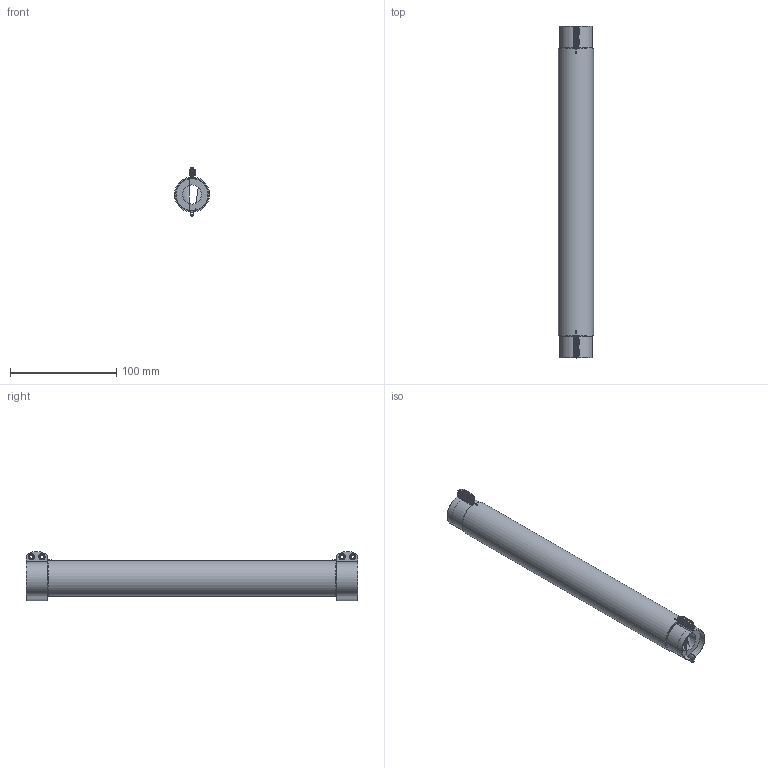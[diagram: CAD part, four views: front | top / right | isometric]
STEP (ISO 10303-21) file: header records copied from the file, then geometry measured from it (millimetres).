
FILE_DESCRIPTION(/* description */ (''),/* implementation_level */ '2;1');
FILE_NAME(/* name */ 'C:\_Vault\Dati\CATALOGO\RC-RS\TF\RS1300.stp',/* time_stamp */ '2014-01-29T14:45:41+01:00',/* author */ ('stefano'),/* organization */ (''),/* preprocessor_version */ 'ST-DEVELOPER v15.2',/* originating_system */ 'Autodesk Inventor 2014',/* authorisation */ '');
FILE_SCHEMA (('AUTOMOTIVE_DESIGN { 1 0 10303 214 3 1 1 }'));
Length unit declared in the file: millimetre
Products named in the file (1): RS1300
Bounding box: 32.97 x 312 x 46.13 mm (x, y, z)
Volume: 171247.2 mm3; surface area: 55524.9 mm2
Topology: 1 solids, 5 shells, 123 faces, 284 edges, 185 vertices
Faces by surface type: cylinder 53, plane 44, torus 18, bspline 8
Full cylindrical faces by diameter (mm): 0.4 x2, 0.8 x4, 3.2 x4, 4.2 x8, 6 x8, 18 x1, 30 x3, 33 x1
Entity records: 3935 total; most frequent: CARTESIAN_POINT 1135, DIRECTION 554, ORIENTED_EDGE 456, AXIS2_PLACEMENT_3D 239, EDGE_CURVE 228, EDGE_LOOP 208, VERTEX_POINT 176, CIRCLE 124
